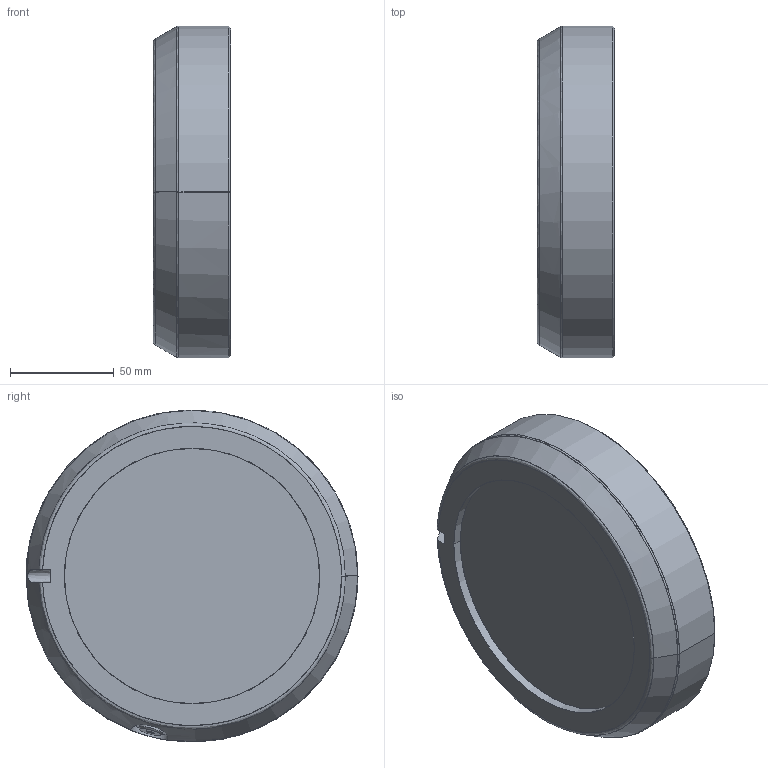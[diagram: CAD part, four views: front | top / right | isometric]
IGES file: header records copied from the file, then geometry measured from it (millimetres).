
Start section: SolidWorks IGES file using analytic representation for surfaces
Global section: file name: C:\Users\SEALDUN\OneDrive - ABB\Documents\R&D Robotics\Work Items\WI 632927 light weight hole removal\IGES\IRB5720-MH3_180kg-260_OC_03_IGES_J\IRB5720-MH3_180kg-260_OmniCore_rev00_LINK06_CAD.igs; native system: SolidWorks 2024; preprocessor: SolidWorks 2024; author: SEALDUN; date: 250708.132523; units: millimetre
Bounding box: 37.4 x 160 x 160 mm (x, y, z)
Surface area: 76443.6 mm2 (no closed solid volume)
Topology: 0 solids, 0 shells, 149 faces, 2855 edges, 2853 vertices
Faces by surface type: revolution 87, bspline 62
